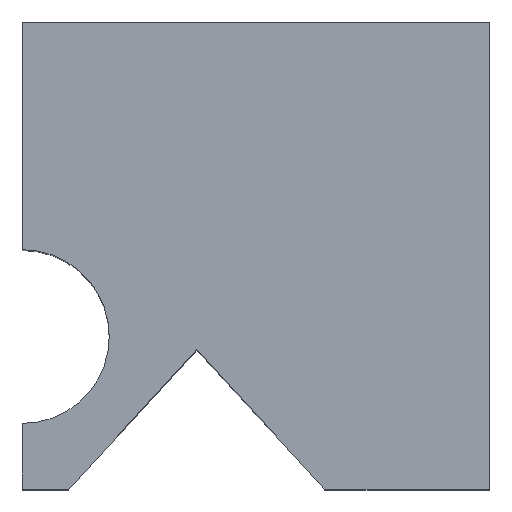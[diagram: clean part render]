
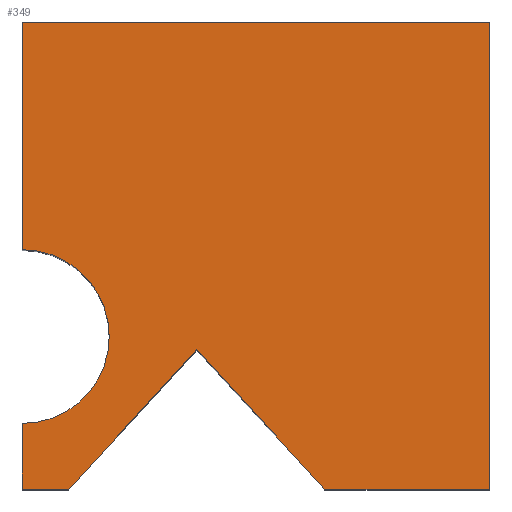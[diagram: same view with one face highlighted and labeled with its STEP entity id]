
A CAD part, top view. The second image highlights one B-rep face of the part: STEP entity #349.
In plain terms, the highlighted planar face has unit normal (0, 0, 1).
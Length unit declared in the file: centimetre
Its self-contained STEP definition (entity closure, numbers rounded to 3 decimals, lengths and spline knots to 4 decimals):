
#1 = ORIENTED_EDGE ( 'NONE', *, *, #187, .T. ) ;
#7 = LINE ( 'NONE', #202, #288 ) ;
#12 = DIRECTION ( 'NONE',  ( 0., 1., 0. ) ) ;
#19 = DIRECTION ( 'NONE',  ( 0., 0., 1. ) ) ;
#24 = VECTOR ( 'NONE', #12, 100. ) ;
#28 = VERTEX_POINT ( 'NONE', #171 ) ;
#37 = VERTEX_POINT ( 'NONE', #137 ) ;
#38 = EDGE_CURVE ( 'NONE', #191, #62, #55, .T. ) ;
#41 = DIRECTION ( 'NONE',  ( 0.676, 0.737, 0. ) ) ;
#55 = CIRCLE ( 'NONE', #213, 185.9044 ) ;
#56 = ORIENTED_EDGE ( 'NONE', *, *, #223, .T. ) ;
#62 = VERTEX_POINT ( 'NONE', #263 ) ;
#65 = ORIENTED_EDGE ( 'NONE', *, *, #378, .T. ) ;
#68 = VERTEX_POINT ( 'NONE', #234 ) ;
#80 = FACE_OUTER_BOUND ( 'NONE', #289, .T. ) ;
#87 = VERTEX_POINT ( 'NONE', #388 ) ;
#105 = CARTESIAN_POINT ( 'NONE',  ( 0., 1000., 1000. ) ) ;
#114 = LINE ( 'NONE', #333, #271 ) ;
#118 = ORIENTED_EDGE ( 'NONE', *, *, #38, .T. ) ;
#128 = DIRECTION ( 'NONE',  ( 0., -1., 0. ) ) ;
#129 = VERTEX_POINT ( 'NONE', #166 ) ;
#137 = CARTESIAN_POINT ( 'NONE',  ( 647.259, 0., 1000. ) ) ;
#144 = VECTOR ( 'NONE', #193, 100. ) ;
#154 = CARTESIAN_POINT ( 'NONE',  ( 0., 512.6101, 1000. ) ) ;
#157 = EDGE_CURVE ( 'NONE', #379, #191, #158, .T. ) ;
#158 = LINE ( 'NONE', #105, #264 ) ;
#165 = DIRECTION ( 'NONE',  ( 1., 0., 0. ) ) ;
#166 = CARTESIAN_POINT ( 'NONE',  ( 1000., 0., 1000. ) ) ;
#171 = CARTESIAN_POINT ( 'NONE',  ( 1000., 1000., 1000. ) ) ;
#176 = VECTOR ( 'NONE', #361, 100. ) ;
#183 = ORIENTED_EDGE ( 'NONE', *, *, #256, .T. ) ;
#186 = ORIENTED_EDGE ( 'NONE', *, *, #211, .T. ) ;
#187 = EDGE_CURVE ( 'NONE', #367, #68, #287, .T. ) ;
#191 = VERTEX_POINT ( 'NONE', #154 ) ;
#193 = DIRECTION ( 'NONE',  ( -1., 0., 0. ) ) ;
#202 = CARTESIAN_POINT ( 'NONE',  ( 0., 0., 1000. ) ) ;
#204 = CARTESIAN_POINT ( 'NONE',  ( 0., 0., 1000. ) ) ;
#211 = EDGE_CURVE ( 'NONE', #28, #379, #231, .T. ) ;
#213 = AXIS2_PLACEMENT_3D ( 'NONE', #266, #261, #358 ) ;
#220 = VECTOR ( 'NONE', #41, 100. ) ;
#223 = EDGE_CURVE ( 'NONE', #87, #367, #382, .T. ) ;
#226 = ORIENTED_EDGE ( 'NONE', *, *, #157, .T. ) ;
#231 = LINE ( 'NONE', #320, #144 ) ;
#234 = CARTESIAN_POINT ( 'NONE',  ( 373.3854, 298.5737, 1000. ) ) ;
#235 = DIRECTION ( 'NONE',  ( 0., -1., 0. ) ) ;
#237 = LINE ( 'NONE', #300, #176 ) ;
#239 = CARTESIAN_POINT ( 'NONE',  ( 99.5117, 0., 1000. ) ) ;
#245 = VECTOR ( 'NONE', #165, 100. ) ;
#256 = EDGE_CURVE ( 'NONE', #37, #129, #7, .T. ) ;
#261 = DIRECTION ( 'NONE',  ( 0., 0., -1. ) ) ;
#263 = CARTESIAN_POINT ( 'NONE',  ( 0., 140.8014, 1000. ) ) ;
#264 = VECTOR ( 'NONE', #128, 100. ) ;
#266 = CARTESIAN_POINT ( 'NONE',  ( 0., 326.7057, 1000. ) ) ;
#268 = PLANE ( 'NONE',  #355 ) ;
#271 = VECTOR ( 'NONE', #235, 100. ) ;
#276 = EDGE_CURVE ( 'NONE', #129, #28, #347, .T. ) ;
#287 = LINE ( 'NONE', #351, #220 ) ;
#288 = VECTOR ( 'NONE', #293, 100. ) ;
#289 = EDGE_LOOP ( 'NONE', ( #118, #340, #56, #1, #65, #183, #317, #186, #226 ) ) ;
#293 = DIRECTION ( 'NONE',  ( 1., 0., 0. ) ) ;
#295 = DIRECTION ( 'NONE',  ( 1., 0., 0. ) ) ;
#300 = CARTESIAN_POINT ( 'NONE',  ( 373.3854, 298.5737, 1000. ) ) ;
#317 = ORIENTED_EDGE ( 'NONE', *, *, #276, .T. ) ;
#320 = CARTESIAN_POINT ( 'NONE',  ( 0., 1000., 1000. ) ) ;
#325 = CARTESIAN_POINT ( 'NONE',  ( 1000., 1000., 1000. ) ) ;
#333 = CARTESIAN_POINT ( 'NONE',  ( 0., 1000., 1000. ) ) ;
#340 = ORIENTED_EDGE ( 'NONE', *, *, #365, .T. ) ;
#347 = LINE ( 'NONE', #325, #24 ) ;
#349 = ADVANCED_FACE ( 'NONE', ( #80 ), #268, .T. ) ;
#351 = CARTESIAN_POINT ( 'NONE',  ( 99.5117, 0., 1000. ) ) ;
#355 = AXIS2_PLACEMENT_3D ( 'NONE', #204, #19, #295 ) ;
#357 = CARTESIAN_POINT ( 'NONE',  ( 0., 0., 1000. ) ) ;
#358 = DIRECTION ( 'NONE',  ( -1., 0., 0. ) ) ;
#359 = CARTESIAN_POINT ( 'NONE',  ( 0., 1000., 1000. ) ) ;
#361 = DIRECTION ( 'NONE',  ( 0.676, -0.737, 0. ) ) ;
#365 = EDGE_CURVE ( 'NONE', #62, #87, #114, .T. ) ;
#367 = VERTEX_POINT ( 'NONE', #239 ) ;
#378 = EDGE_CURVE ( 'NONE', #68, #37, #237, .T. ) ;
#379 = VERTEX_POINT ( 'NONE', #359 ) ;
#382 = LINE ( 'NONE', #357, #245 ) ;
#388 = CARTESIAN_POINT ( 'NONE',  ( 0., 0., 1000. ) ) ;
